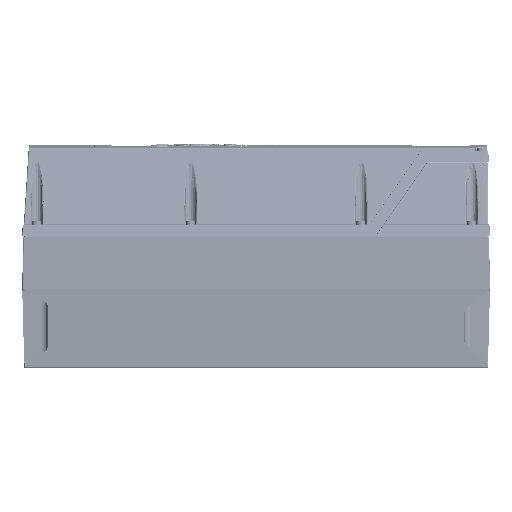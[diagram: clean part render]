
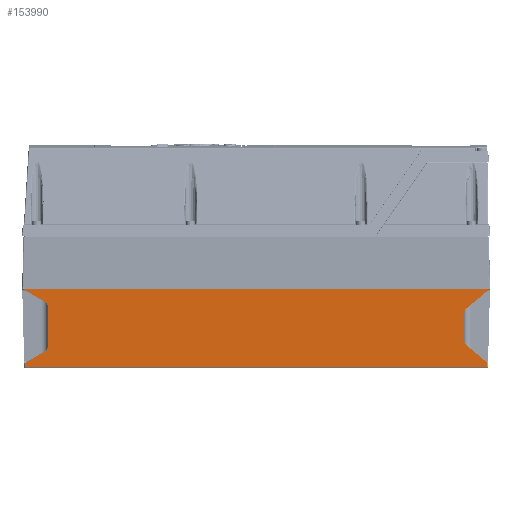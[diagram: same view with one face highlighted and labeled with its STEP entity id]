
A CAD part, left-side view. The second image highlights one B-rep face of the part: STEP entity #153990.
In plain terms, the highlighted planar face has unit normal (-1, 0, -0.026).
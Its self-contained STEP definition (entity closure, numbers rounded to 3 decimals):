
#8643=CARTESIAN_POINT('',(-120.983,-209.245,
10.616));
#8895=CARTESIAN_POINT('',(-119.673,-188.786,
-39.426));
#8896=CARTESIAN_POINT('',(-119.68,-188.488,
-39.176));
#8897=CARTESIAN_POINT('',(-119.694,-187.982,
-38.635));
#8898=CARTESIAN_POINT('',(-119.718,-187.435,
-37.724));
#8899=CARTESIAN_POINT('',(-119.744,-187.089,
-36.72));
#8900=CARTESIAN_POINT('',(-119.763,-187.,-35.984));
#8901=CARTESIAN_POINT('',(-119.773,-187.,-35.595));
#9047=CARTESIAN_POINT('',(-119.267,-207.267,
-54.933));
#9254=CARTESIAN_POINT('',(-120.434,-187.,-10.381));
#9255=CARTESIAN_POINT('',(-120.444,-187.,-9.992));
#9256=CARTESIAN_POINT('',(-120.463,-187.089,
-9.257));
#9257=CARTESIAN_POINT('',(-120.489,-187.435,
-8.252));
#9258=CARTESIAN_POINT('',(-120.513,-187.982,
-7.341));
#9259=CARTESIAN_POINT('',(-120.527,-188.488,
-6.8));
#9260=CARTESIAN_POINT('',(-120.534,-188.786,
-6.551));
#9262=DIRECTION('',(-0.013,-0.866,0.5));
#9263=VECTOR('',#9262,20.51);
#9264=CARTESIAN_POINT('',(-119.26,207.261,
-55.185));
#9265=LINE('',#9264,#9263);
#9266=DIRECTION('',(-0.026,0.,1.));
#9267=VECTOR('',#9266,35.698);
#9268=CARTESIAN_POINT('',(-119.642,187.,-40.601));
#9269=LINE('',#9268,#9267);
#9270=DIRECTION('',(-0.013,0.866,0.5));
#9271=VECTOR('',#9270,22.758);
#9272=CARTESIAN_POINT('',(-120.69,189.5,-0.586));
#9273=LINE('',#9272,#9271);
#9274=CARTESIAN_POINT('',(-121.,209.,11.25));
#9275=CARTESIAN_POINT('',(-121.,209.012,11.25));
#9276=CARTESIAN_POINT('',(-121.,209.029,11.242));
#9277=CARTESIAN_POINT('',(-120.999,209.057,11.217));
#9278=CARTESIAN_POINT('',(-120.998,209.084,11.175));
#9279=CARTESIAN_POINT('',(-120.997,209.11,11.119));
#9280=CARTESIAN_POINT('',(-120.994,209.141,11.038));
#9281=CARTESIAN_POINT('',(-120.992,209.174,10.93));
#9282=CARTESIAN_POINT('',(-120.989,209.196,10.838));
#9283=CARTESIAN_POINT('',(-120.988,209.207,10.792));
#9285=CARTESIAN_POINT('',(-120.983,-209.245,
10.616));
#9286=CARTESIAN_POINT('',(-120.985,-209.232,
10.679));
#9287=CARTESIAN_POINT('',(-120.987,-209.213,
10.771));
#9288=CARTESIAN_POINT('',(-120.991,-209.183,
10.891));
#9289=CARTESIAN_POINT('',(-120.993,-209.159,
10.978));
#9290=CARTESIAN_POINT('',(-120.995,-209.132,
11.062));
#9291=CARTESIAN_POINT('',(-120.997,-209.107,
11.127));
#9292=CARTESIAN_POINT('',(-120.998,-209.083,
11.176));
#9293=CARTESIAN_POINT('',(-120.999,-209.062,
11.209));
#9294=CARTESIAN_POINT('',(-121.,-209.037,
11.237));
#9295=CARTESIAN_POINT('',(-121.,-209.016,11.25));
#9296=CARTESIAN_POINT('',(-121.,-209.,11.25));
#9298=DIRECTION('',(0.017,0.766,-0.643));
#9299=VECTOR('',#9298,26.711);
#9300=CARTESIAN_POINT('',(-120.983,-209.245,
10.616));
#9301=LINE('',#9300,#9299);
#9302=DIRECTION('',(0.026,0.,-1.));
#9303=VECTOR('',#9302,25.223);
#9304=CARTESIAN_POINT('',(-120.434,-187.,-10.381));
#9305=LINE('',#9304,#9303);
#9306=DIRECTION('',(0.017,-0.766,-0.643));
#9307=VECTOR('',#9306,24.129);
#9308=CARTESIAN_POINT('',(-119.673,-188.786,
-39.426));
#9309=LINE('',#9308,#9307);
#9310=DIRECTION('',(0.026,0.026,-0.999));
#9311=VECTOR('',#9310,4.096);
#9312=CARTESIAN_POINT('',(-119.267,-207.267,
-54.933));
#9313=LINE('',#9312,#9311);
#9314=DIRECTION('',(0.,-1.,0.));
#9315=VECTOR('',#9314,414.32);
#9316=CARTESIAN_POINT('',(-119.16,207.16,
-59.026));
#9317=LINE('',#9316,#9315);
#9318=DIRECTION('',(-0.026,0.026,0.999));
#9319=VECTOR('',#9318,3.843);
#9320=CARTESIAN_POINT('',(-119.16,207.16,
-59.026));
#9321=LINE('',#9320,#9319);
#9364=CARTESIAN_POINT('',(-119.26,207.261,
-55.185));
#13145=CARTESIAN_POINT('',(-119.642,187.,-40.601));
#13146=CARTESIAN_POINT('',(-119.63,187.,-41.082));
#13147=CARTESIAN_POINT('',(-119.606,187.134,
-41.967));
#13148=CARTESIAN_POINT('',(-119.576,187.625,
-43.127));
#13149=CARTESIAN_POINT('',(-119.55,188.384,
-44.132));
#13150=CARTESIAN_POINT('',(-119.535,189.083,
-44.691));
#13151=CARTESIAN_POINT('',(-119.529,189.5,-44.931));
#13233=CARTESIAN_POINT('',(-120.69,189.5,-0.586));
#13234=CARTESIAN_POINT('',(-120.684,189.083,
-0.826));
#13235=CARTESIAN_POINT('',(-120.669,188.384,
-1.385));
#13236=CARTESIAN_POINT('',(-120.643,187.625,
-2.39));
#13237=CARTESIAN_POINT('',(-120.612,187.134,
-3.55));
#13238=CARTESIAN_POINT('',(-120.589,187.,-4.435));
#13239=CARTESIAN_POINT('',(-120.577,187.,-4.916));
#13499=DIRECTION('',(0.,-1.,0.));
#13500=VECTOR('',#13499,418.);
#13501=CARTESIAN_POINT('',(-121.,209.,11.25));
#13502=LINE('',#13501,#13500);
#125733=CARTESIAN_POINT('',(-121.,209.,11.25));
#125734=VERTEX_POINT('',#125733);
#125735=VERTEX_POINT('',#9283);
#125746=VERTEX_POINT('',#8643);
#125747=VERTEX_POINT('',#9296);
#125786=VERTEX_POINT('',#9364);
#125787=VERTEX_POINT('',#9047);
#125856=CARTESIAN_POINT('',(-119.16,207.16,
-59.026));
#125857=VERTEX_POINT('',#125856);
#125860=CARTESIAN_POINT('',(-119.16,-207.16,
-59.026));
#125861=VERTEX_POINT('',#125860);
#127675=CARTESIAN_POINT('',(-119.642,187.,-40.601));
#127676=CARTESIAN_POINT('',(-120.577,187.,-4.916));
#127677=VERTEX_POINT('',#127675);
#127678=VERTEX_POINT('',#127676);
#127679=CARTESIAN_POINT('',(-120.434,-187.,-10.381));
#127680=CARTESIAN_POINT('',(-119.773,-187.,-35.595));
#127681=VERTEX_POINT('',#127679);
#127682=VERTEX_POINT('',#127680);
#127689=CARTESIAN_POINT('',(-120.69,189.5,-0.586));
#127690=VERTEX_POINT('',#127689);
#127691=CARTESIAN_POINT('',(-120.534,-188.786,
-6.551));
#127692=VERTEX_POINT('',#127691);
#127697=CARTESIAN_POINT('',(-119.529,189.5,-44.931));
#127698=VERTEX_POINT('',#127697);
#127699=CARTESIAN_POINT('',(-119.673,-188.786,
-39.426));
#127700=VERTEX_POINT('',#127699);
#153957=CARTESIAN_POINT('',(-121.,210.,11.25));
#153958=DIRECTION('',(-1.,0.,-0.026));
#153959=DIRECTION('',(0.,-1.,0.));
#153960=AXIS2_PLACEMENT_3D('',#153957,#153958,#153959);
#153961=PLANE('',#153960);
#153963=ORIENTED_EDGE('',*,*,#153962,.T.);
#153965=ORIENTED_EDGE('',*,*,#153964,.F.);
#153967=ORIENTED_EDGE('',*,*,#153966,.T.);
#153969=ORIENTED_EDGE('',*,*,#153968,.F.);
#153971=ORIENTED_EDGE('',*,*,#153970,.T.);
#153973=ORIENTED_EDGE('',*,*,#153972,.F.);
#153975=ORIENTED_EDGE('',*,*,#153974,.T.);
#153976=ORIENTED_EDGE('',*,*,#152712,.F.);
#153977=ORIENTED_EDGE('',*,*,#152734,.T.);
#153978=ORIENTED_EDGE('',*,*,#153951,.F.);
#153979=ORIENTED_EDGE('',*,*,#153159,.T.);
#153980=ORIENTED_EDGE('',*,*,#153184,.F.);
#153981=ORIENTED_EDGE('',*,*,#153496,.T.);
#153983=ORIENTED_EDGE('',*,*,#153982,.T.);
#153985=ORIENTED_EDGE('',*,*,#153984,.F.);
#153987=ORIENTED_EDGE('',*,*,#153986,.T.);
#153988=EDGE_LOOP('',(#153963,#153965,#153967,#153969,#153971,#153973,#153975,
#153976,#153977,#153978,#153979,#153980,#153981,#153983,#153985,#153987));
#153989=FACE_OUTER_BOUND('',#153988,.F.);
#8902=B_SPLINE_CURVE_WITH_KNOTS('',3,(#8895,#8896,#8897,#8898,#8899,#8900,
#8901),.UNSPECIFIED.,.F.,.F.,(4,1,1,1,4),(0.,0.25,0.5,0.75,1.),
.UNSPECIFIED.);
#9261=B_SPLINE_CURVE_WITH_KNOTS('',3,(#9254,#9255,#9256,#9257,#9258,#9259,
#9260),.UNSPECIFIED.,.F.,.F.,(4,1,1,1,4),(0.,0.25,0.5,0.75,1.),
.UNSPECIFIED.);
#9284=B_SPLINE_CURVE_WITH_KNOTS('',3,(#9274,#9275,#9276,#9277,#9278,#9279,#9280,
#9281,#9282,#9283),.UNSPECIFIED.,.F.,.F.,(4,1,1,1,1,1,1,4),(0.,0.063,
0.125,0.25,0.375,0.5,0.75,1.),.UNSPECIFIED.);
#9297=B_SPLINE_CURVE_WITH_KNOTS('',3,(#9285,#9286,#9287,#9288,#9289,#9290,#9291,
#9292,#9293,#9294,#9295,#9296),.UNSPECIFIED.,.F.,.F.,(4,1,1,1,1,1,1,1,1,4),
(0.,0.25,0.375,0.5,0.625,0.75,0.813,0.875,0.938,1.),
.UNSPECIFIED.);
#13152=B_SPLINE_CURVE_WITH_KNOTS('',3,(#13145,#13146,#13147,#13148,#13149,
#13150,#13151),.UNSPECIFIED.,.F.,.F.,(4,1,1,1,4),(0.,0.25,0.5,0.75,
1.),.UNSPECIFIED.);
#13240=B_SPLINE_CURVE_WITH_KNOTS('',3,(#13233,#13234,#13235,#13236,#13237,
#13238,#13239),.UNSPECIFIED.,.F.,.F.,(4,1,1,1,4),(0.,0.25,0.5,0.75,
1.),.UNSPECIFIED.);
#152712=EDGE_CURVE('',#125746,#125747,#9297,.T.);
#152734=EDGE_CURVE('',#125746,#127692,#9301,.T.);
#153159=EDGE_CURVE('',#127681,#127682,#9305,.T.);
#153184=EDGE_CURVE('',#127700,#127682,#8902,.T.);
#153496=EDGE_CURVE('',#127700,#125787,#9309,.T.);
#153951=EDGE_CURVE('',#127681,#127692,#9261,.T.);
#153962=EDGE_CURVE('',#125786,#127698,#9265,.T.);
#153964=EDGE_CURVE('',#127677,#127698,#13152,.T.);
#153966=EDGE_CURVE('',#127677,#127678,#9269,.T.);
#153968=EDGE_CURVE('',#127690,#127678,#13240,.T.);
#153970=EDGE_CURVE('',#127690,#125735,#9273,.T.);
#153972=EDGE_CURVE('',#125734,#125735,#9284,.T.);
#153974=EDGE_CURVE('',#125734,#125747,#13502,.T.);
#153982=EDGE_CURVE('',#125787,#125861,#9313,.T.);
#153984=EDGE_CURVE('',#125857,#125861,#9317,.T.);
#153986=EDGE_CURVE('',#125857,#125786,#9321,.T.);
#153990=ADVANCED_FACE('',(#153989),#153961,.T.);
